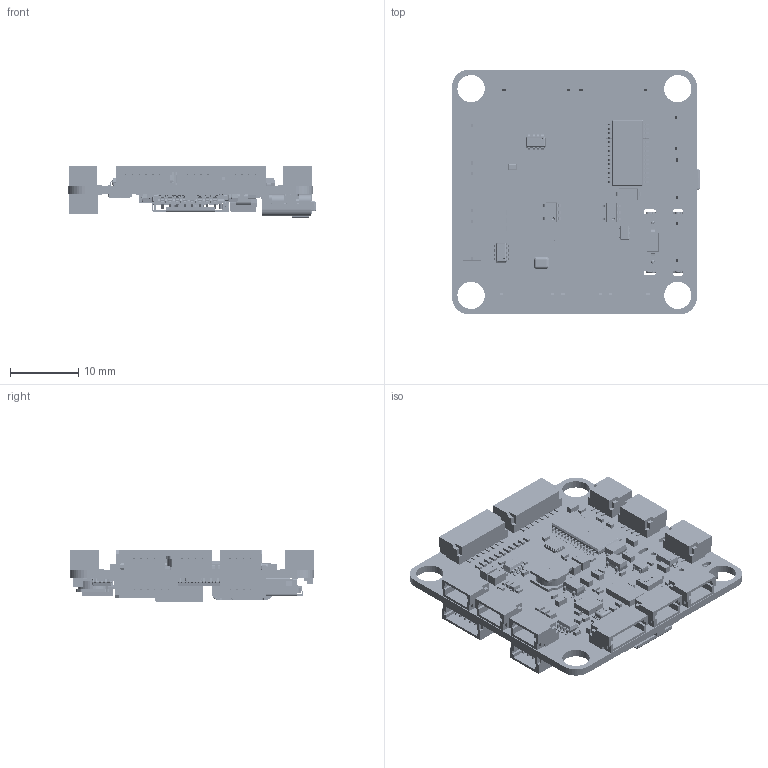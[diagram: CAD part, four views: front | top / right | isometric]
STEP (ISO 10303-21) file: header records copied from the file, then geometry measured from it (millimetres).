
FILE_DESCRIPTION(('Open CASCADE Model'),'2;1');
FILE_NAME('Open CASCADE Shape Model','2024-06-14T17:42:29',('Author'),( 'Open CASCADE'),'Open CASCADE STEP processor 6.8','Open CASCADE 6.8' ,'Unknown');
FILE_SCHEMA(('AUTOMOTIVE_DESIGN { 1 0 10303 214 1 1 1 1 }'));
Length unit declared in the file: millimetre
Products named in the file (210): PCB; Board; Open CASCADE STEP translator 6.8 1.1.1; R53; RES_0402_(1005_metric); R8; C23; CAP_0603; L2; NR5020; NR5020-6036_AF0_ASM; NR5020-1074_AF0_ASM; _2_1_2_3_4_5_6_7_10003; 1_1_2_3_4_5_6_7_8_0006; 2_1_2_3_4_5_6_7_8_0003; _1_1_2_3_4_5_6_7_10012; _1_1_2_3_4_5_6_7_20003; L1; R52; R51; U12; ALSRobot-QFN16_3x3; ALSRobot-QFN16_3x3_User_Library-QFN-16_3x3_1; ALSRobot-QFN16_3x3_User_Library-QFN-16_3x3_2; ALSRobot-QFN16_3x3_User_Library-QFN-16_3x3_3; ALSRobot-QFN16_3x3_User_Library-QFN-16_3x3_4; ALSRobot-QFN16_3x3_User_Library-QFN-16_3x3_5; ALSRobot-QFN16_3x3_User_Library-QFN-16_3x3_6; ALSRobot-QFN16_3x3_User_Library-QFN-16_3x3_7; ALSRobot-QFN16_3x3_User_Library-QFN-16_3x3_8; ALSRobot-QFN16_3x3_User_Library-QFN-16_3x3_9; ALSRobot-QFN16_3x3_User_Library-QFN-16_3x3_10; ALSRobot-QFN16_3x3_User_Library-QFN-16_3x3_11; ALSRobot-QFN16_3x3_User_Library-QFN-16_3x3_12; ALSRobot-QFN16_3x3_User_Library-QFN-16_3x3_13; ALSRobot-QFN16_3x3_User_Library-QFN-16_3x3_14; ALSRobot-QFN16_3x3_User_Library-QFN-16_3x3_15; ALSRobot-QFN16_3x3_User_Library-QFN-16_3x3_16; ALSRobot-QFN16_3x3_User_Library-QFN-16_3x3_17; ALSRobot-QFN16_3x3_User_Library-QFN-16_3x3_18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
Assembly tree (349 placements, depth 6):
  PCB
    Board
      Open CASCADE STEP translator 6.8 1.1.1
    R53
      RES_0402_(1005_metric)
    R8
      RES_0402_(1005_metric)
    C23
      CAP_0603
    L2
      NR5020
        NR5020-6036_AF0_ASM
          NR5020-1074_AF0_ASM
            _2_1_2_3_4_5_6_7_10003
            1_1_2_3_4_5_6_7_8_0006
            2_1_2_3_4_5_6_7_8_0003
            _1_1_2_3_4_5_6_7_10012
            _1_1_2_3_4_5_6_7_20003
    L1
      NR5020
        NR5020-6036_AF0_ASM
          NR5020-1074_AF0_ASM
            _2_1_2_3_4_5_6_7_10003
            1_1_2_3_4_5_6_7_8_0006
            2_1_2_3_4_5_6_7_8_0003
            _1_1_2_3_4_5_6_7_10012
            _1_1_2_3_4_5_6_7_20003
    R52
      RES_0402_(1005_metric)
    R51
      RES_0402_(1005_metric)
    U12
      ALSRobot-QFN16_3x3
        ALSRobot-QFN16_3x3_User_Library-QFN-16_3x3_1
        ALSRobot-QFN16_3x3_User_Library-QFN-16_3x3_2
        ALSRobot-QFN16_3x3_User_Library-QFN-16_3x3_3
        ALSRobot-QFN16_3x3_User_Library-QFN-16_3x3_4
        ALSRobot-QFN16_3x3_User_Library-QFN-16_3x3_5
        ALSRobot-QFN16_3x3_User_Library-QFN-16_3x3_6
        ALSRobot-QFN16_3x3_User_Library-QFN-16_3x3_7
        ALSRobot-QFN16_3x3_User_Library-QFN-16_3x3_8
        ALSRobot-QFN16_3x3_User_Library-QFN-16_3x3_9
        ALSRobot-QFN16_3x3_User_Library-QFN-16_3x3_10
        ALSRobot-QFN16_3x3_User_Library-QFN-16_3x3_11
        ALSRobot-QFN16_3x3_User_Library-QFN-16_3x3_12
        ALSRobot-QFN16_3x3_User_Library-QFN-16_3x3_13
        ALSRobot-QFN16_3x3_User_Library-QFN-16_3x3_14
        ALSRobot-QFN16_3x3_User_Library-QFN-16_3x3_15
        ALSRobot-QFN16_3x3_User_Library-QFN-16_3x3_16
        ALSRobot-QFN16_3x3_User_Library-QFN-16_3x3_17
        ALSRobot-QFN16_3x3_User_Library-QFN-16_3x3_18
    U4
      sot238
    R50
      RES_0402_(1005_metric)
    R49
      RES_0402_(1005_metric)
    C52
      CAP_0402_(1005_metric)
    C51
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Bounding box: 36.46 x 36 x 7.59 mm (x, y, z)
Volume: 2860.6 mm3; surface area: 8242.8 mm2
Topology: 207 solids, 207 shells, 13216 faces, 34340 edges, 21833 vertices
Faces by surface type: plane 10068, cylinder 2028, torus 414, extrusion 361, sphere 224, bspline 111, cone 6, revolution 4
Full cylindrical faces by diameter (mm): 0.75 x2, 0.9 x2, 4 x1
Entity records: 288190 total; most frequent: CARTESIAN_POINT 56636, ORIENTED_EDGE 41818, DIRECTION 38406, EDGE_CURVE 20909, VECTOR 17540, LINE 17232, VERTEX_POINT 13564, AXIS2_PLACEMENT_3D 10431
